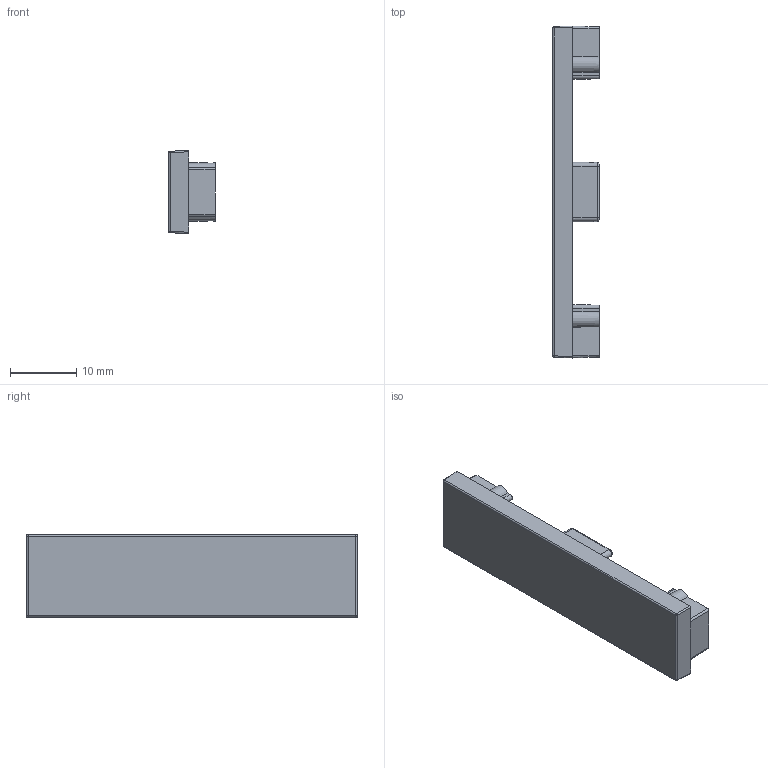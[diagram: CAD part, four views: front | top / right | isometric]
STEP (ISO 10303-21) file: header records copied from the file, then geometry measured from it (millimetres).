
FILE_DESCRIPTION((''),'2;1');
FILE_NAME('KC-0006-0101','2025-08-01T15:59:26',('YF-06'),(''),'CREO PARAMETRIC BY PTC INC, 2022073','CREO PARAMETRIC BY PTC INC, 2022073','');
FILE_SCHEMA(('CONFIG_CONTROL_DESIGN','SHAPE_APPEARANCE_LAYERS_GROUPS'));
Length unit declared in the file: millimetre
Products named in the file (1): KC-0006-0101
Bounding box: 7 x 50 x 12.5 mm (x, y, z)
Volume: 1498.7 mm3; surface area: 2404.9 mm2
Topology: 1 solids, 1 shells, 138 faces, 376 edges, 240 vertices
Faces by surface type: plane 64, cylinder 46, cone 16, bspline 8, sphere 4
Entity records: 6020 total; most frequent: CARTESIAN_POINT 1440, ORIENTED_EDGE 752, DIRECTION 624, PRESENTATION_STYLE_ASSIGNMENT 377, STYLED_ITEM 377, CURVE_STYLE 376, EDGE_CURVE 376, VERTEX_POINT 240
